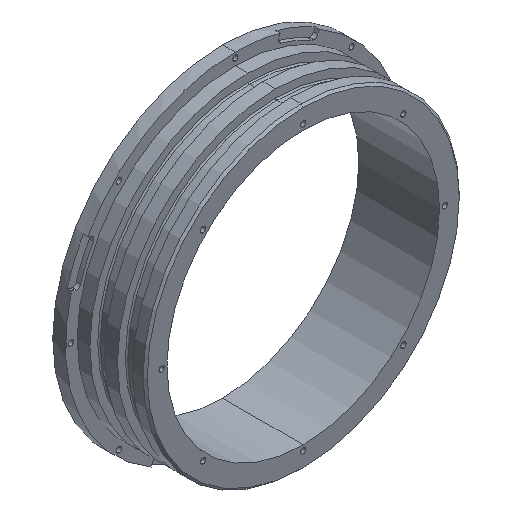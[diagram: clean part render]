
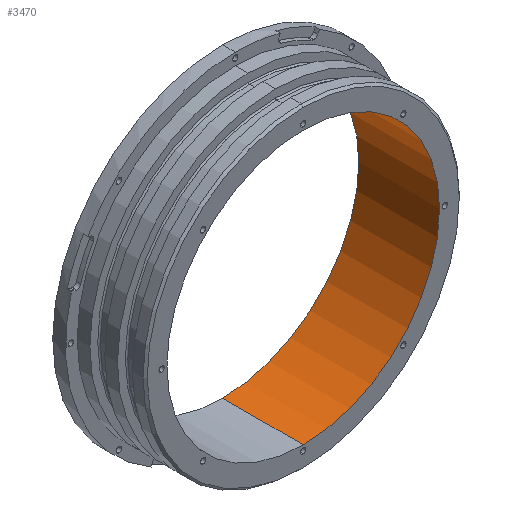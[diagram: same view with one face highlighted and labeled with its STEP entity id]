
A CAD part, isometric view. The second image highlights one B-rep face of the part: STEP entity #3470.
In plain terms, the highlighted cylindrical face has radius 64.2 mm (diameter 128.4 mm), a partial arc.
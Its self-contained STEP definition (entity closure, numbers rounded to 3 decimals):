
#36 = CARTESIAN_POINT ( 'NONE',  ( 0., -32., 0. ) ) ;
#144 = AXIS2_PLACEMENT_3D ( 'NONE', #2837, #2545, #2578 ) ;
#186 = LINE ( 'NONE', #2819, #3107 ) ;
#332 = EDGE_CURVE ( 'NONE', #2327, #3197, #3481, .T. ) ;
#371 = CARTESIAN_POINT ( 'NONE',  ( 0., 32., 64.2 ) ) ;
#381 = DIRECTION ( 'NONE',  ( 0., -1., 0. ) ) ;
#460 = CARTESIAN_POINT ( 'NONE',  ( 0., 32., 0. ) ) ;
#810 = FACE_OUTER_BOUND ( 'NONE', #1888, .T. ) ;
#916 = DIRECTION ( 'NONE',  ( 0., -1., 0. ) ) ;
#1113 = DIRECTION ( 'NONE',  ( 0., -1., 0. ) ) ;
#1135 = CARTESIAN_POINT ( 'NONE',  ( 0., -32., 64.2 ) ) ;
#1365 = EDGE_CURVE ( 'NONE', #3197, #3196, #186, .T. ) ;
#1463 = AXIS2_PLACEMENT_3D ( 'NONE', #460, #2350, #1815 ) ;
#1536 = ORIENTED_EDGE ( 'NONE', *, *, #332, .T. ) ;
#1815 = DIRECTION ( 'NONE',  ( 0., 0., -1. ) ) ;
#1841 = ORIENTED_EDGE ( 'NONE', *, *, #2239, .T. ) ;
#1888 = EDGE_LOOP ( 'NONE', ( #2053, #1536, #2958, #1841 ) ) ;
#1953 = CYLINDRICAL_SURFACE ( 'NONE', #1463, 64.2 ) ;
#2053 = ORIENTED_EDGE ( 'NONE', *, *, #2403, .F. ) ;
#2080 = VECTOR ( 'NONE', #381, 1000. ) ;
#2220 = DIRECTION ( 'NONE',  ( 0., 0., -1. ) ) ;
#2239 = EDGE_CURVE ( 'NONE', #3196, #2271, #2438, .T. ) ;
#2271 = VERTEX_POINT ( 'NONE', #1135 ) ;
#2327 = VERTEX_POINT ( 'NONE', #3075 ) ;
#2350 = DIRECTION ( 'NONE',  ( 0., -1., 0. ) ) ;
#2403 = EDGE_CURVE ( 'NONE', #2327, #2271, #2854, .T. ) ;
#2438 = CIRCLE ( 'NONE', #3037, 64.2 ) ;
#2545 = DIRECTION ( 'NONE',  ( 0., 1., 0. ) ) ;
#2553 = CARTESIAN_POINT ( 'NONE',  ( 0., -32., -64.2 ) ) ;
#2563 = CARTESIAN_POINT ( 'NONE',  ( 0., 6., -64.2 ) ) ;
#2578 = DIRECTION ( 'NONE',  ( 0., 0., 1. ) ) ;
#2819 = CARTESIAN_POINT ( 'NONE',  ( 0., 32., -64.2 ) ) ;
#2837 = CARTESIAN_POINT ( 'NONE',  ( 0., 6., 0. ) ) ;
#2854 = LINE ( 'NONE', #371, #2080 ) ;
#2958 = ORIENTED_EDGE ( 'NONE', *, *, #1365, .T. ) ;
#3037 = AXIS2_PLACEMENT_3D ( 'NONE', #36, #1113, #2220 ) ;
#3075 = CARTESIAN_POINT ( 'NONE',  ( 0., 6., 64.2 ) ) ;
#3107 = VECTOR ( 'NONE', #916, 1000. ) ;
#3196 = VERTEX_POINT ( 'NONE', #2553 ) ;
#3197 = VERTEX_POINT ( 'NONE', #2563 ) ;
#3470 = ADVANCED_FACE ( 'NONE', ( #810 ), #1953, .F. ) ;
#3481 = CIRCLE ( 'NONE', #144, 64.2 ) ;
